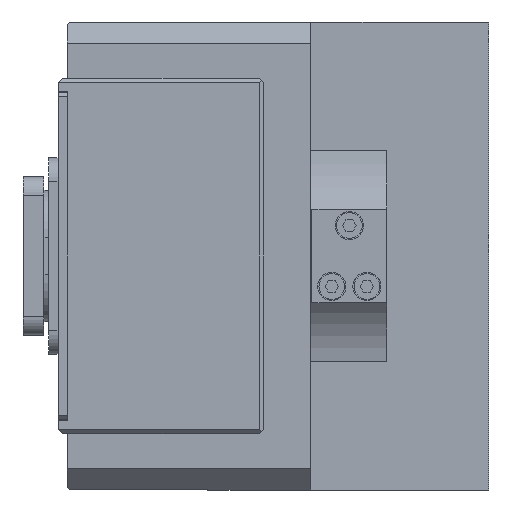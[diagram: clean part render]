
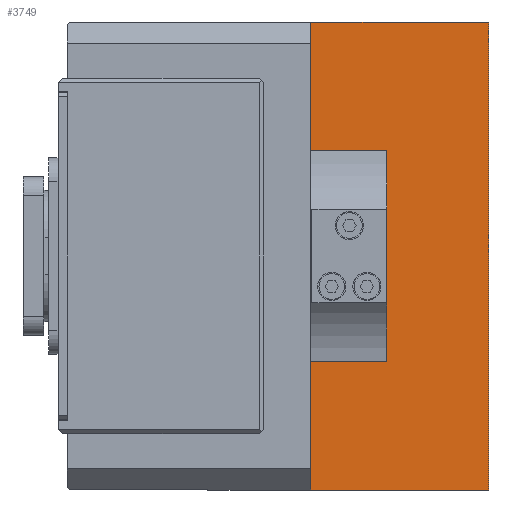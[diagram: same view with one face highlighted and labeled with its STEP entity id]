
A CAD part, left-side view. The second image highlights one B-rep face of the part: STEP entity #3749.
In plain terms, the highlighted planar face has unit normal (-1, 0, 0).
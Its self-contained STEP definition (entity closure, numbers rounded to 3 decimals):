
#128 = CARTESIAN_POINT ( 'NONE',  ( -77., 0., 50. ) ) ;
#436 = LINE ( 'NONE', #837, #9430 ) ;
#458 = DIRECTION ( 'NONE',  ( 0., 1., 0. ) ) ;
#837 = CARTESIAN_POINT ( 'NONE',  ( -77., 0., 22.49 ) ) ;
#932 = CARTESIAN_POINT ( 'NONE',  ( -77., 0., 50. ) ) ;
#1159 = LINE ( 'NONE', #5620, #1709 ) ;
#1398 = VERTEX_POINT ( 'NONE', #7154 ) ;
#1709 = VECTOR ( 'NONE', #7331, 1000. ) ;
#2840 = ORIENTED_EDGE ( 'NONE', *, *, #7426, .T. ) ;
#3149 = VERTEX_POINT ( 'NONE', #5694 ) ;
#3232 = VERTEX_POINT ( 'NONE', #128 ) ;
#3749 = ADVANCED_FACE ( 'NONE', ( #14944 ), #16885, .T. ) ;
#3762 = EDGE_CURVE ( 'NONE', #19127, #9388, #1159, .T. ) ;
#4795 = VECTOR ( 'NONE', #458, 1000. ) ;
#5049 = VECTOR ( 'NONE', #18464, 1000. ) ;
#5620 = CARTESIAN_POINT ( 'NONE',  ( -77., 0., -22.49 ) ) ;
#5694 = CARTESIAN_POINT ( 'NONE',  ( -77., 38., -50. ) ) ;
#6036 = EDGE_CURVE ( 'NONE', #3149, #9388, #20745, .T. ) ;
#6123 = DIRECTION ( 'NONE',  ( -1., 0., 0. ) ) ;
#6130 = CARTESIAN_POINT ( 'NONE',  ( -77., 38., 50. ) ) ;
#6692 = EDGE_CURVE ( 'NONE', #10626, #16866, #436, .T. ) ;
#7154 = CARTESIAN_POINT ( 'NONE',  ( -77., 38., 50. ) ) ;
#7285 = VECTOR ( 'NONE', #19965, 1000. ) ;
#7331 = DIRECTION ( 'NONE',  ( 0., 1., 0. ) ) ;
#7364 = CARTESIAN_POINT ( 'NONE',  ( -77., 38., -22.49 ) ) ;
#7426 = EDGE_CURVE ( 'NONE', #7569, #3232, #13071, .T. ) ;
#7569 = VERTEX_POINT ( 'NONE', #9522 ) ;
#7892 = CARTESIAN_POINT ( 'NONE',  ( -77., 38., 22.49 ) ) ;
#7920 = DIRECTION ( 'NONE',  ( 0., 0., 1. ) ) ;
#9069 = DIRECTION ( 'NONE',  ( 0., 0., 1. ) ) ;
#9388 = VERTEX_POINT ( 'NONE', #7364 ) ;
#9430 = VECTOR ( 'NONE', #20580, 1000. ) ;
#9522 = CARTESIAN_POINT ( 'NONE',  ( -77., 0., -50. ) ) ;
#9590 = LINE ( 'NONE', #22006, #4795 ) ;
#9856 = LINE ( 'NONE', #14859, #5049 ) ;
#10626 = VERTEX_POINT ( 'NONE', #7892 ) ;
#10776 = ORIENTED_EDGE ( 'NONE', *, *, #6036, .F. ) ;
#10813 = ORIENTED_EDGE ( 'NONE', *, *, #6692, .T. ) ;
#10996 = EDGE_LOOP ( 'NONE', ( #10813, #12999, #18340, #10776, #18296, #2840, #14496, #21761 ) ) ;
#11072 = LINE ( 'NONE', #14747, #14154 ) ;
#11135 = DIRECTION ( 'NONE',  ( 0., 0., -1. ) ) ;
#11171 = VECTOR ( 'NONE', #7920, 1000. ) ;
#12362 = CARTESIAN_POINT ( 'NONE',  ( -77., 21.75, -22.49 ) ) ;
#12678 = CARTESIAN_POINT ( 'NONE',  ( -77., 0., 50. ) ) ;
#12999 = ORIENTED_EDGE ( 'NONE', *, *, #22836, .T. ) ;
#13071 = LINE ( 'NONE', #12678, #17244 ) ;
#14154 = VECTOR ( 'NONE', #11135, 1000. ) ;
#14480 = DIRECTION ( 'NONE',  ( 0., 0., 1. ) ) ;
#14496 = ORIENTED_EDGE ( 'NONE', *, *, #15099, .T. ) ;
#14747 = CARTESIAN_POINT ( 'NONE',  ( -77., 21.75, 50. ) ) ;
#14859 = CARTESIAN_POINT ( 'NONE',  ( -77., 38., 50. ) ) ;
#14944 = FACE_OUTER_BOUND ( 'NONE', #10996, .T. ) ;
#15099 = EDGE_CURVE ( 'NONE', #3232, #1398, #9590, .T. ) ;
#16864 = CARTESIAN_POINT ( 'NONE',  ( -77., 21.75, 22.49 ) ) ;
#16866 = VERTEX_POINT ( 'NONE', #16864 ) ;
#16885 = PLANE ( 'NONE',  #17892 ) ;
#17244 = VECTOR ( 'NONE', #14480, 1000. ) ;
#17892 = AXIS2_PLACEMENT_3D ( 'NONE', #932, #6123, #9069 ) ;
#18147 = CARTESIAN_POINT ( 'NONE',  ( -77., 0., -50. ) ) ;
#18296 = ORIENTED_EDGE ( 'NONE', *, *, #19213, .T. ) ;
#18340 = ORIENTED_EDGE ( 'NONE', *, *, #3762, .T. ) ;
#18464 = DIRECTION ( 'NONE',  ( 0., 0., 1. ) ) ;
#19127 = VERTEX_POINT ( 'NONE', #12362 ) ;
#19213 = EDGE_CURVE ( 'NONE', #3149, #7569, #21664, .T. ) ;
#19341 = EDGE_CURVE ( 'NONE', #10626, #1398, #9856, .T. ) ;
#19965 = DIRECTION ( 'NONE',  ( 0., -1., 0. ) ) ;
#20580 = DIRECTION ( 'NONE',  ( 0., -1., 0. ) ) ;
#20745 = LINE ( 'NONE', #6130, #11171 ) ;
#21664 = LINE ( 'NONE', #18147, #7285 ) ;
#21761 = ORIENTED_EDGE ( 'NONE', *, *, #19341, .F. ) ;
#22006 = CARTESIAN_POINT ( 'NONE',  ( -77., 90., 50. ) ) ;
#22836 = EDGE_CURVE ( 'NONE', #16866, #19127, #11072, .T. ) ;
